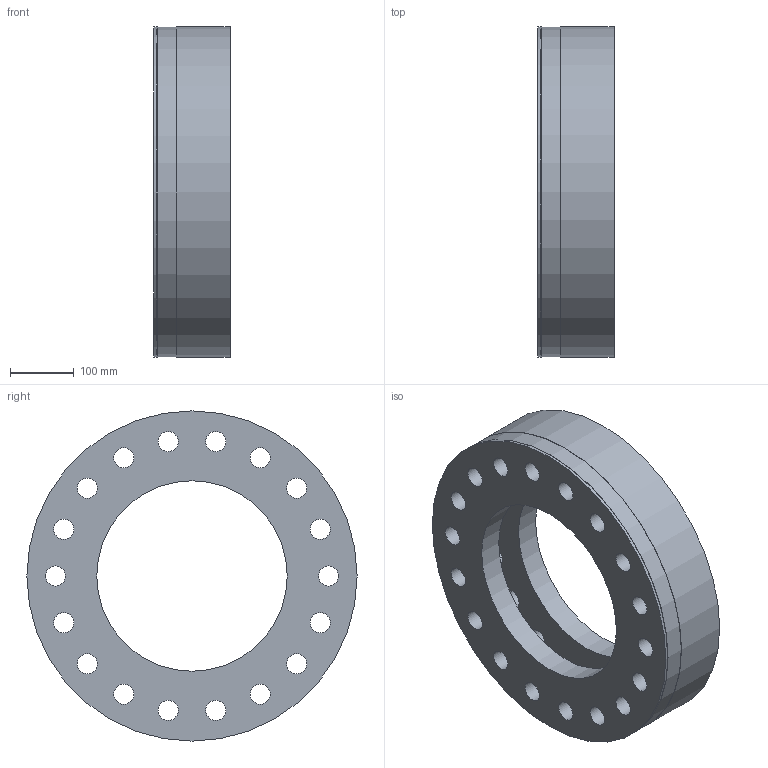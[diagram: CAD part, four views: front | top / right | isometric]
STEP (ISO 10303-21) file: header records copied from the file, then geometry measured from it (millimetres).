
FILE_DESCRIPTION(/* description */ (''),/* implementation_level */ '2;1');
FILE_NAME(/* name */ 'F:\Sensorik\Standard_Messflansche\16_100_250_kNm\Messflanschl_100-250kNm.stp',/* time_stamp */ '2019-12-12T15:24:09+01:00',/* author */ ('lander'),/* organization */ (''),/* preprocessor_version */ 'ST-DEVELOPER v16.5',/* originating_system */ 'Autodesk Inventor 2017',/* authorisation */ '');
FILE_SCHEMA (('AUTOMOTIVE_DESIGN { 1 0 10303 214 3 1 1 }'));
Length unit declared in the file: millimetre
Products named in the file (1): Freigabemodell_150kNm
Bounding box: 120 x 520 x 520 mm (x, y, z)
Volume: 10585178.3 mm3; surface area: 933556.9 mm2
Topology: 1 solids, 1 shells, 52 faces, 154 edges, 106 vertices
Faces by surface type: cylinder 42, torus 4, plane 4, cone 2
Full cylindrical faces by diameter (mm): 31.67 x36, 300 x2, 495 x1, 519 x1, 520 x2
Entity records: 1582 total; most frequent: DIRECTION 282, CARTESIAN_POINT 229, EDGE_LOOP 176, ORIENTED_EDGE 176, AXIS2_PLACEMENT_3D 141, FACE_BOUND 124, CIRCLE 88, VERTEX_POINT 88
